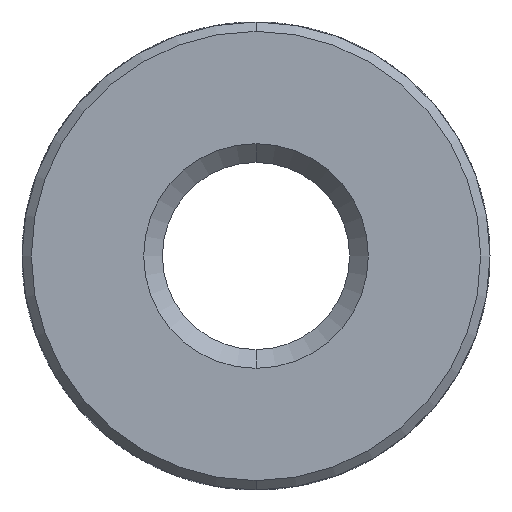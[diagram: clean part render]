
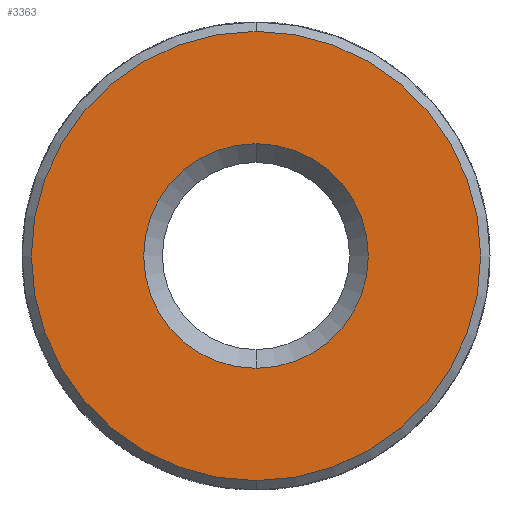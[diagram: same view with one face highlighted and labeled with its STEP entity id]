
A CAD part, front view. The second image highlights one B-rep face of the part: STEP entity #3363.
In plain terms, the highlighted planar face has unit normal (0, -1, 0).
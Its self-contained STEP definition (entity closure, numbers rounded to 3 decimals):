
#171 = EDGE_CURVE ( 'NONE', #5059, #5185, #4549, .T. ) ;
#339 = DIRECTION ( 'NONE',  ( 0., -1., 0. ) ) ;
#960 = ORIENTED_EDGE ( 'NONE', *, *, #1731, .T. ) ;
#1020 = CARTESIAN_POINT ( 'NONE',  ( 0., -3.6, 0. ) ) ;
#1063 = AXIS2_PLACEMENT_3D ( 'NONE', #1326, #4209, #1737 ) ;
#1176 = AXIS2_PLACEMENT_3D ( 'NONE', #1589, #339, #4855 ) ;
#1285 = CIRCLE ( 'NONE', #4910, 2.4 ) ;
#1326 = CARTESIAN_POINT ( 'NONE',  ( 0., -3.6, 0. ) ) ;
#1561 = EDGE_CURVE ( 'NONE', #4698, #4438, #5246, .T. ) ;
#1589 = CARTESIAN_POINT ( 'NONE',  ( 0., -3.6, 2.5 ) ) ;
#1602 = AXIS2_PLACEMENT_3D ( 'NONE', #4970, #4120, #1658 ) ;
#1658 = DIRECTION ( 'NONE',  ( 0., 0., -1. ) ) ;
#1731 = EDGE_CURVE ( 'NONE', #4438, #4698, #1285, .T. ) ;
#1737 = DIRECTION ( 'NONE',  ( 0., 0., -1. ) ) ;
#1799 = ORIENTED_EDGE ( 'NONE', *, *, #171, .T. ) ;
#1877 = ORIENTED_EDGE ( 'NONE', *, *, #1561, .T. ) ;
#2083 = FACE_BOUND ( 'NONE', #4924, .T. ) ;
#3363 = ADVANCED_FACE ( 'NONE', ( #4600, #2083 ), #4837, .T. ) ;
#3506 = DIRECTION ( 'NONE',  ( 0., -1., 0. ) ) ;
#3701 = AXIS2_PLACEMENT_3D ( 'NONE', #4107, #5334, #5365 ) ;
#3712 = CARTESIAN_POINT ( 'NONE',  ( 0., -3.6, 2.4 ) ) ;
#3885 = DIRECTION ( 'NONE',  ( 0., 0., -1. ) ) ;
#4107 = CARTESIAN_POINT ( 'NONE',  ( 0., -3.6, 0. ) ) ;
#4120 = DIRECTION ( 'NONE',  ( 0., -1., 0. ) ) ;
#4209 = DIRECTION ( 'NONE',  ( 0., 1., 0. ) ) ;
#4438 = VERTEX_POINT ( 'NONE', #5251 ) ;
#4549 = CIRCLE ( 'NONE', #1063, 1.2 ) ;
#4600 = FACE_OUTER_BOUND ( 'NONE', #5297, .T. ) ;
#4698 = VERTEX_POINT ( 'NONE', #3712 ) ;
#4837 = PLANE ( 'NONE',  #1176 ) ;
#4855 = DIRECTION ( 'NONE',  ( 0., 0., -1. ) ) ;
#4910 = AXIS2_PLACEMENT_3D ( 'NONE', #1020, #3506, #3885 ) ;
#4924 = EDGE_LOOP ( 'NONE', ( #1799, #5257 ) ) ;
#4970 = CARTESIAN_POINT ( 'NONE',  ( 0., -3.6, 0. ) ) ;
#4983 = EDGE_CURVE ( 'NONE', #5185, #5059, #5260, .T. ) ;
#5059 = VERTEX_POINT ( 'NONE', #5384 ) ;
#5074 = CARTESIAN_POINT ( 'NONE',  ( 0., -3.6, 1.2 ) ) ;
#5185 = VERTEX_POINT ( 'NONE', #5074 ) ;
#5246 = CIRCLE ( 'NONE', #1602, 2.4 ) ;
#5251 = CARTESIAN_POINT ( 'NONE',  ( 0., -3.6, -2.4 ) ) ;
#5257 = ORIENTED_EDGE ( 'NONE', *, *, #4983, .T. ) ;
#5260 = CIRCLE ( 'NONE', #3701, 1.2 ) ;
#5297 = EDGE_LOOP ( 'NONE', ( #1877, #960 ) ) ;
#5334 = DIRECTION ( 'NONE',  ( 0., 1., 0. ) ) ;
#5365 = DIRECTION ( 'NONE',  ( 0., 0., -1. ) ) ;
#5384 = CARTESIAN_POINT ( 'NONE',  ( 0., -3.6, -1.2 ) ) ;
